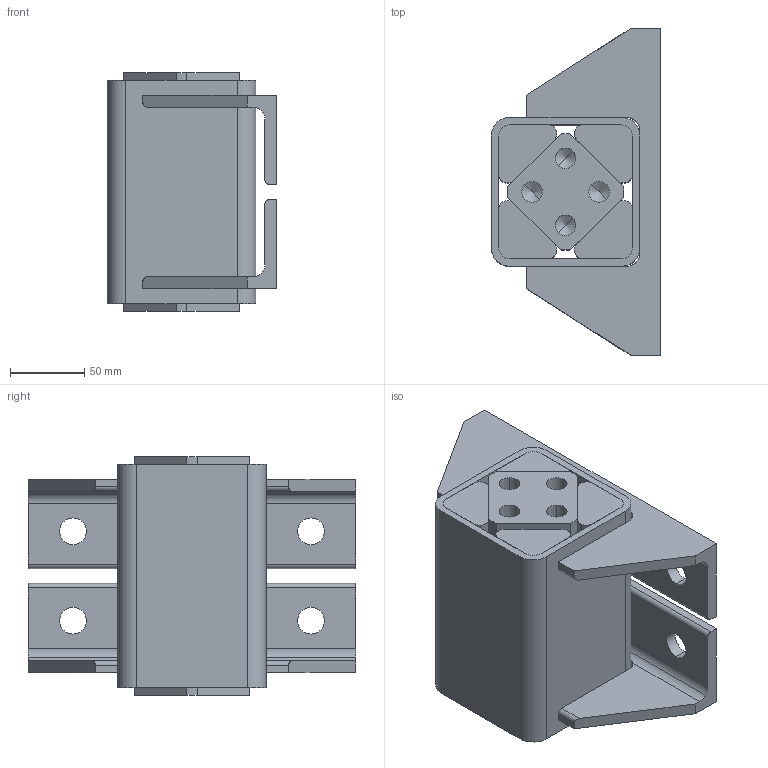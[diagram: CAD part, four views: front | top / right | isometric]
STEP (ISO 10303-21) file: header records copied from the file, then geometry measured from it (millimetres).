
FILE_DESCRIPTION((''),'2;1');
FILE_NAME('D:\ROSTA\Gummifederelemente\3D\DW-A60x150_01101001.stp','2005-02-11T03:04:00',('Administrator'),(''),'Autodesk Inventor 8','Autodesk Inventor 8','');
FILE_SCHEMA(('AUTOMOTIVE_DESIGN { 1 0 10303 214 1 1 1 1 }'));
Length unit declared in the file: millimetre
Products named in the file (5): Baugruppe1; 2.4.4811-001; 2.4.4811-002; 2.4.4811-003; 2.4.4811-004
Assembly tree (8 placements, depth 2):
  Baugruppe1
    2.4.4811-001
    2.4.4811-002
    2.4.4811-003  x2
    2.4.4811-004  x4
Bounding box: 114 x 220 x 160 mm (x, y, z)
Volume: 1742659.4 mm3; surface area: 346392.1 mm2
Topology: 8 solids, 8 shells, 144 faces, 368 edges, 232 vertices
Faces by surface type: plane 66, cylinder 46, bspline 32
Entity records: 3411 total; most frequent: CARTESIAN_POINT 1099, DIRECTION 458, ORIENTED_EDGE 452, EDGE_CURVE 226, AXIS2_PLACEMENT_3D 159, VERTEX_POINT 148, VECTOR 140, LINE 140
